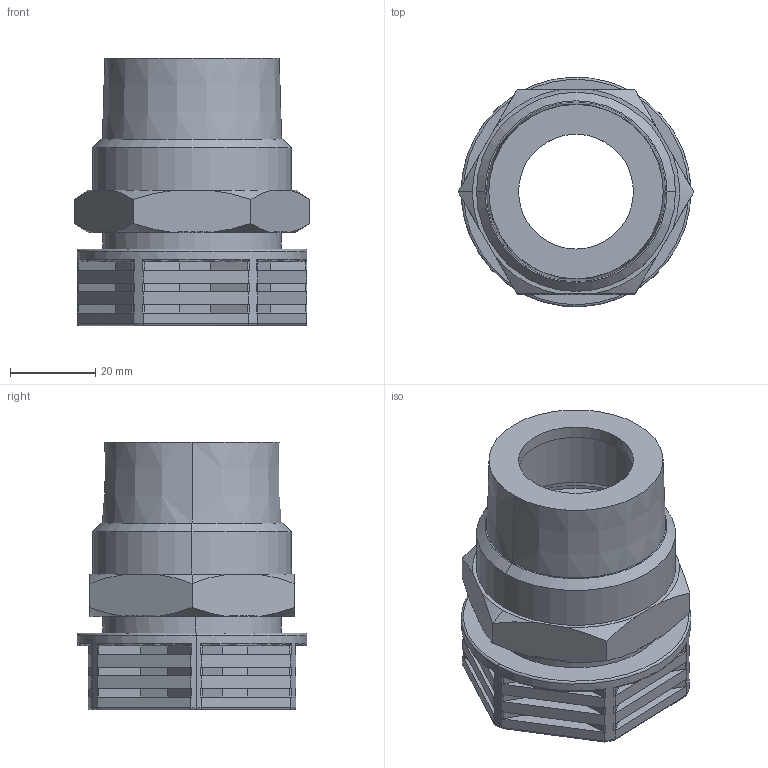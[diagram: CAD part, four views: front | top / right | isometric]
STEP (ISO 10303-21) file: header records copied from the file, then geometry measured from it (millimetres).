
FILE_DESCRIPTION (( 'STEP AP203' ), '1' );
FILE_NAME ('KP_PRK-32M.step', '2011-08-08T12:04:47', ( '' ), ( '' ), 'SwSTEP 2.0', 'SolidWorks 2011', '' );
FILE_SCHEMA (( 'CONFIG_CONTROL_DESIGN' ));
Length unit declared in the file: millimetre
Products named in the file (1): KP_PRK-32M
Bounding box: 55.43 x 53.96 x 62.91 mm (x, y, z)
Volume: 52098.1 mm3; surface area: 25070 mm2
Topology: 1 solids, 1 shells, 785 faces, 2075 edges, 1303 vertices
Faces by surface type: cylinder 398, plane 327, torus 38, cone 22
Entity records: 24659 total; most frequent: DIRECTION 4588, CARTESIAN_POINT 4420, ORIENTED_EDGE 4150, EDGE_CURVE 2075, AXIS2_PLACEMENT_3D 1787, VERTEX_POINT 1303, VECTOR 1014, LINE 1014
